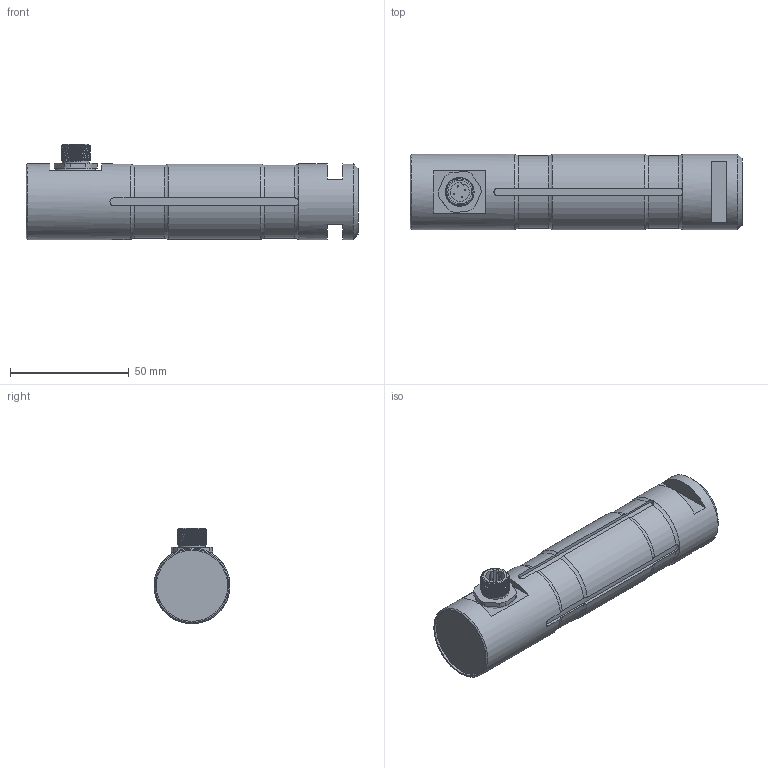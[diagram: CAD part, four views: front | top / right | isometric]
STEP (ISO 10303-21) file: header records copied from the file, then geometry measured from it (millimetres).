
FILE_DESCRIPTION(/* description */ ('Alibre Inc.'),/* implementation_level */ '2;1');
FILE_NAME(/* name */ 'export0',/* time_stamp */ '2015-12-21T09:46:06+01:00',/* author */ (''),/* organization */ (''),/* preprocessor_version */ 'ST-DEVELOPER v14',/* originating_system */ 'Alibre',/* authorisation */ '');
FILE_SCHEMA (('CONFIG_CONTROL_DESIGN'));
Length unit declared in the file: centimetre
Products named in the file (6): ID_1; ID_2; ID_3; ID_4
Bounding box: 140 x 32 x 40.23 mm (x, y, z)
Volume: 106632.1 mm3; surface area: 20713 mm2
Topology: 8 solids, 8 shells, 230 faces, 561 edges, 358 vertices
Faces by surface type: plane 110, cylinder 74, bspline 23, torus 17, cone 6
Full cylindrical faces by diameter (mm): 0.5 x8, 8 x2, 10 x4, 11.5 x1, 13 x1, 14.376 x1, 30 x1, 32 x2
Entity records: 17003 total; most frequent: CARTESIAN_POINT 11885, ORIENTED_EDGE 1048, DIRECTION 677, EDGE_CURVE 519, VERTEX_POINT 345, FACE_BOUND 277, EDGE_LOOP 276, AXIS2_PLACEMENT_3D 267
